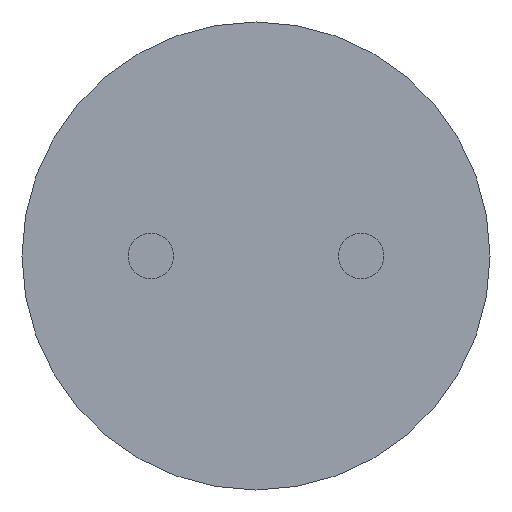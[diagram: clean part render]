
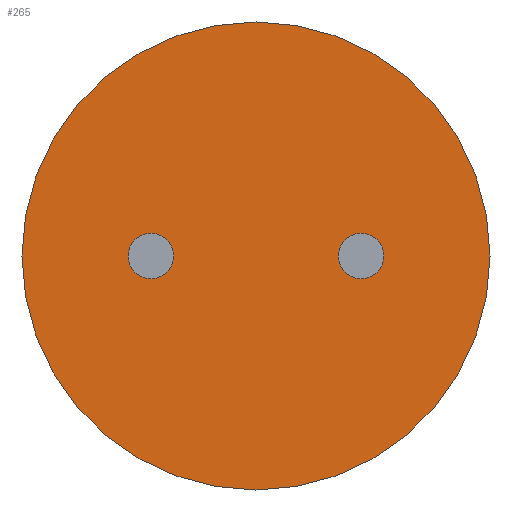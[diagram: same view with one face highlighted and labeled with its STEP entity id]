
A CAD part, front view. The second image highlights one B-rep face of the part: STEP entity #265.
In plain terms, the highlighted planar face has unit normal (0, -1, 0).
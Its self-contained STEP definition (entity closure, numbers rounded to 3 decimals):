
#240 = CARTESIAN_POINT ( 'NONE',  ( 2.825, 0., 0. ) ) ;
#241 = VERTEX_POINT ( 'NONE', #240 ) ;
#242 = CARTESIAN_POINT ( 'NONE',  ( -2.825, 0., 0. ) ) ;
#243 = VERTEX_POINT ( 'NONE', #242 ) ;
#244 = CARTESIAN_POINT ( 'NONE',  ( 0., 0., 0. ) ) ;
#245 = DIRECTION ( 'NONE',  ( 0., -1., 0. ) ) ;
#246 = DIRECTION ( 'NONE',  ( 1., 0., 0. ) ) ;
#247 = AXIS2_PLACEMENT_3D ( 'NONE', #244, #245, #246 ) ;
#248 = CIRCLE ( 'NONE', #247, 2.825) ;
#249 = EDGE_CURVE ( 'NONE', #241, #243, #248, .T. ) ;
#250 = ORIENTED_EDGE ( 'NONE', *, *, #249, .T. ) ;
#251 = CARTESIAN_POINT ( 'NONE',  ( 0., 0., 0. ) ) ;
#252 = DIRECTION ( 'NONE',  ( 0., -1., 0. ) ) ;
#253 = DIRECTION ( 'NONE',  ( 1., 0., 0. ) ) ;
#254 = AXIS2_PLACEMENT_3D ( 'NONE', #251, #252, #253 ) ;
#255 = CIRCLE ( 'NONE', #254, 2.825) ;
#256 = EDGE_CURVE ( 'NONE', #243, #241, #255, .T. ) ;
#257 = ORIENTED_EDGE ( 'NONE', *, *, #256, .T. ) ;
#258 = EDGE_LOOP ( 'NONE', ( #250, #257 ) ) ;
#259 = FACE_OUTER_BOUND ( 'NONE', #258, .T. ) ;
#260 = CARTESIAN_POINT ( 'NONE',  ( 0., 0., 0. ) ) ;
#261 = DIRECTION ( 'NONE',  ( 0., -1., 0. ) ) ;
#262 = DIRECTION ( 'NONE',  ( 1., 0., 0. ) ) ;
#263 = AXIS2_PLACEMENT_3D ( 'NONE', #260, #261, #262 ) ;
#264 = PLANE ( 'NONE', #263 ) ;
#265 = ADVANCED_FACE ( 'NONE', ( #259 ), #264, .T. ) ;
